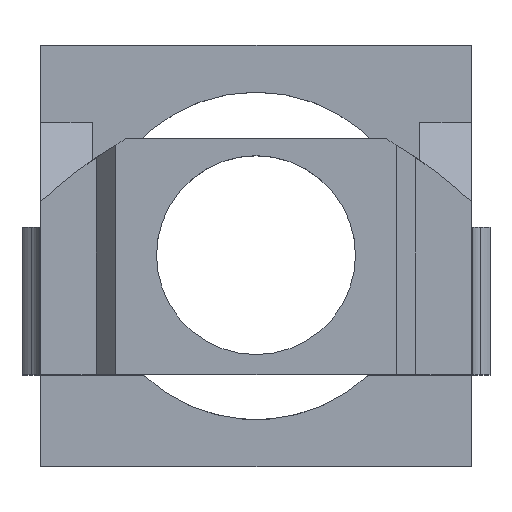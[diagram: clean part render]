
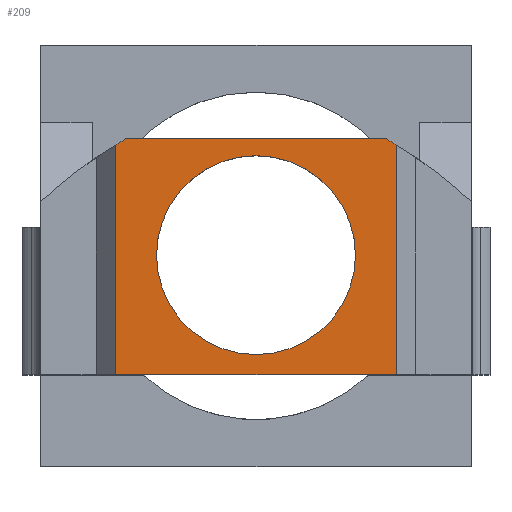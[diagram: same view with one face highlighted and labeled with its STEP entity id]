
A CAD part, top view. The second image highlights one B-rep face of the part: STEP entity #209.
In plain terms, the highlighted planar face has unit normal (0, 0, 1).
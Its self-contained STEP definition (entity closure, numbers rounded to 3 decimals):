
#121 = CARTESIAN_POINT ( 'NONE',  ( -44.035, -123.759, 230. ) ) ;
#209 = ADVANCED_FACE ( 'NONE', ( #2320, #1165 ), #1169, .F. ) ;
#224 = EDGE_CURVE ( 'NONE', #2682, #2373, #335, .T. ) ;
#227 = CIRCLE ( 'NONE', #3413, 200. ) ;
#285 = ORIENTED_EDGE ( 'NONE', *, *, #2398, .T. ) ;
#317 = VECTOR ( 'NONE', #1215, 1000. ) ;
#324 = CARTESIAN_POINT ( 'NONE',  ( 60., 47.053, 230. ) ) ;
#335 = LINE ( 'NONE', #4045, #2025 ) ;
#411 = EDGE_LOOP ( 'NONE', ( #1922, #3090, #2390, #285, #3083, #3441 ) ) ;
#416 = CIRCLE ( 'NONE', #2020, 42.5 ) ;
#446 = DIRECTION ( 'NONE',  ( -1., 0., 0. ) ) ;
#513 = LINE ( 'NONE', #863, #3808 ) ;
#549 = CARTESIAN_POINT ( 'NONE',  ( 55., 50., 230. ) ) ;
#610 = DIRECTION ( 'NONE',  ( 0., 0., 1. ) ) ;
#861 = VERTEX_POINT ( 'NONE', #1495 ) ;
#863 = CARTESIAN_POINT ( 'NONE',  ( -60., -51., 230. ) ) ;
#971 = DIRECTION ( 'NONE',  ( 0., 0., 1. ) ) ;
#1085 = VERTEX_POINT ( 'NONE', #3995 ) ;
#1150 = LINE ( 'NONE', #3457, #317 ) ;
#1165 = FACE_OUTER_BOUND ( 'NONE', #411, .T. ) ;
#1169 = PLANE ( 'NONE',  #3907 ) ;
#1215 = DIRECTION ( 'NONE',  ( -1., 0., 0. ) ) ;
#1495 = CARTESIAN_POINT ( 'NONE',  ( -42.5, 0., 230. ) ) ;
#1558 = CARTESIAN_POINT ( 'NONE',  ( 60., -51., 230. ) ) ;
#1754 = ORIENTED_EDGE ( 'NONE', *, *, #2481, .F. ) ;
#1806 = AXIS2_PLACEMENT_3D ( 'NONE', #3793, #1873, #4099 ) ;
#1834 = DIRECTION ( 'NONE',  ( -1., 0., 0. ) ) ;
#1845 = CARTESIAN_POINT ( 'NONE',  ( 42.5, 0., 230. ) ) ;
#1873 = DIRECTION ( 'NONE',  ( 0., 0., 1. ) ) ;
#1885 = VERTEX_POINT ( 'NONE', #549 ) ;
#1899 = EDGE_CURVE ( 'NONE', #3037, #2682, #513, .T. ) ;
#1922 = ORIENTED_EDGE ( 'NONE', *, *, #1977, .T. ) ;
#1977 = EDGE_CURVE ( 'NONE', #2373, #3247, #3511, .T. ) ;
#2020 = AXIS2_PLACEMENT_3D ( 'NONE', #2508, #610, #2842 ) ;
#2025 = VECTOR ( 'NONE', #2142, 1000. ) ;
#2142 = DIRECTION ( 'NONE',  ( 1., 0., 0. ) ) ;
#2218 = EDGE_LOOP ( 'NONE', ( #1754, #2628 ) ) ;
#2320 = FACE_BOUND ( 'NONE', #2218, .T. ) ;
#2346 = DIRECTION ( 'NONE',  ( 0., 0., -1. ) ) ;
#2359 = EDGE_CURVE ( 'NONE', #1885, #1085, #1150, .T. ) ;
#2373 = VERTEX_POINT ( 'NONE', #2496 ) ;
#2390 = ORIENTED_EDGE ( 'NONE', *, *, #2359, .T. ) ;
#2398 = EDGE_CURVE ( 'NONE', #1085, #3037, #2854, .T. ) ;
#2404 = EDGE_CURVE ( 'NONE', #861, #3592, #416, .T. ) ;
#2442 = CIRCLE ( 'NONE', #3097, 42.5 ) ;
#2481 = EDGE_CURVE ( 'NONE', #3592, #861, #2442, .T. ) ;
#2496 = CARTESIAN_POINT ( 'NONE',  ( 60., -51., 230. ) ) ;
#2508 = CARTESIAN_POINT ( 'NONE',  ( 0., 0., 230. ) ) ;
#2628 = ORIENTED_EDGE ( 'NONE', *, *, #2404, .F. ) ;
#2682 = VERTEX_POINT ( 'NONE', #3569 ) ;
#2749 = VECTOR ( 'NONE', #3471, 1000. ) ;
#2842 = DIRECTION ( 'NONE',  ( 1., 0., 0. ) ) ;
#2854 = CIRCLE ( 'NONE', #1806, 200. ) ;
#2886 = CARTESIAN_POINT ( 'NONE',  ( 0., 0., 230. ) ) ;
#3037 = VERTEX_POINT ( 'NONE', #3046 ) ;
#3046 = CARTESIAN_POINT ( 'NONE',  ( -60., 47.053, 230. ) ) ;
#3083 = ORIENTED_EDGE ( 'NONE', *, *, #1899, .T. ) ;
#3090 = ORIENTED_EDGE ( 'NONE', *, *, #4115, .F. ) ;
#3096 = CARTESIAN_POINT ( 'NONE',  ( 60., 50., 230. ) ) ;
#3097 = AXIS2_PLACEMENT_3D ( 'NONE', #2886, #971, #3210 ) ;
#3210 = DIRECTION ( 'NONE',  ( 1., 0., 0. ) ) ;
#3247 = VERTEX_POINT ( 'NONE', #324 ) ;
#3413 = AXIS2_PLACEMENT_3D ( 'NONE', #121, #2346, #446 ) ;
#3424 = DIRECTION ( 'NONE',  ( 0., -1., 0. ) ) ;
#3441 = ORIENTED_EDGE ( 'NONE', *, *, #224, .T. ) ;
#3457 = CARTESIAN_POINT ( 'NONE',  ( -60., 50., 230. ) ) ;
#3471 = DIRECTION ( 'NONE',  ( 0., 1., 0. ) ) ;
#3511 = LINE ( 'NONE', #1558, #2749 ) ;
#3569 = CARTESIAN_POINT ( 'NONE',  ( -60., -51., 230. ) ) ;
#3592 = VERTEX_POINT ( 'NONE', #1845 ) ;
#3751 = DIRECTION ( 'NONE',  ( 0., 0., -1. ) ) ;
#3793 = CARTESIAN_POINT ( 'NONE',  ( 44.035, -123.759, 230. ) ) ;
#3808 = VECTOR ( 'NONE', #3424, 1000. ) ;
#3907 = AXIS2_PLACEMENT_3D ( 'NONE', #3096, #3751, #1834 ) ;
#3995 = CARTESIAN_POINT ( 'NONE',  ( -55., 50., 230. ) ) ;
#4045 = CARTESIAN_POINT ( 'NONE',  ( -60., -51., 230. ) ) ;
#4099 = DIRECTION ( 'NONE',  ( -1., 0., 0. ) ) ;
#4115 = EDGE_CURVE ( 'NONE', #1885, #3247, #227, .T. ) ;
